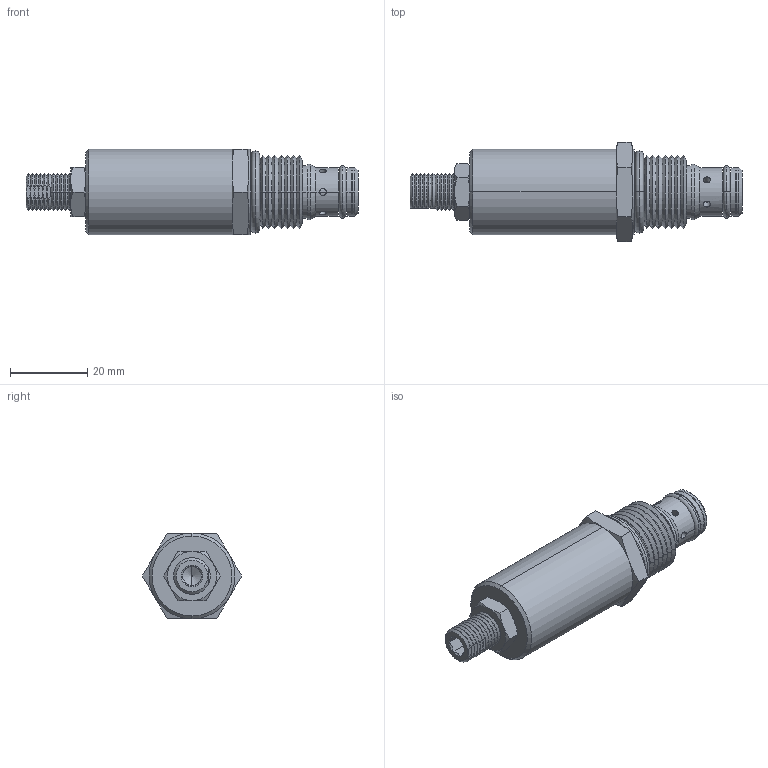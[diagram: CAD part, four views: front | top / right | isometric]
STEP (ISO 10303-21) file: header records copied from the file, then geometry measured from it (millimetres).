
FILE_DESCRIPTION((''),'2;1');
FILE_NAME('U:\Solid model CD\Solid model full\Mechanical\STEP\PBRWD00-3D Full.stp','2008-07-29T09:54:27',('Dan'),(''),'Autodesk Inventor 9','Autodesk Inventor 9','');
FILE_SCHEMA(('AUTOMOTIVE_DESIGN { 1 0 10303 214 1 1 1 1 }'));
Length unit declared in the file: inch
Products named in the file (5): PBRWD00-3D Full; PBRWD00-3D Full1; PBRWD00-3D Full2; PBRWD00-3D Full3; PBRWD00-3D Full4
Assembly tree (4 placements, depth 2):
  PBRWD00-3D Full
    PBRWD00-3D Full1
    PBRWD00-3D Full2
    PBRWD00-3D Full3
    PBRWD00-3D Full4
Bounding box: 85.8 x 25.66 x 22.23 mm (x, y, z)
Volume: 22962.1 mm3; surface area: 7373.6 mm2
Topology: 4 solids, 4 shells, 220 faces, 489 edges, 280 vertices
Faces by surface type: cone 120, plane 48, cylinder 44, torus 8
Entity records: 6421 total; most frequent: CARTESIAN_POINT 1578, DIRECTION 1035, ORIENTED_EDGE 978, EDGE_CURVE 489, AXIS2_PLACEMENT_3D 433, VERTEX_POINT 280, EDGE_LOOP 243, FACE_OUTER_BOUND 220
